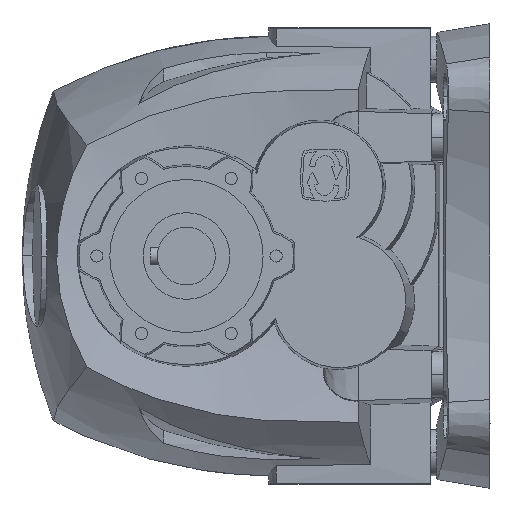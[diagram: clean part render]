
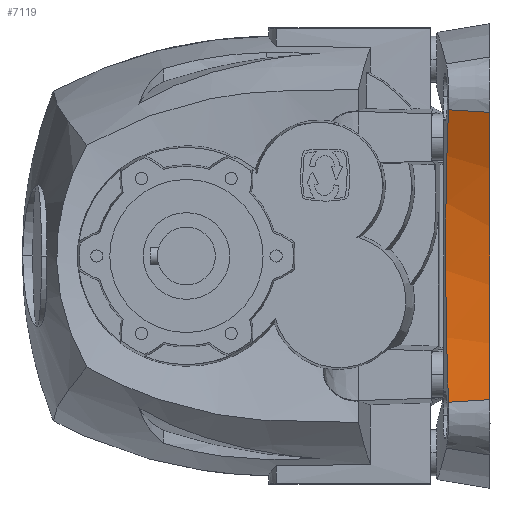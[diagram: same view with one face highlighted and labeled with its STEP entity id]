
A CAD part, left-side view. The second image highlights one B-rep face of the part: STEP entity #7119.
In plain terms, the highlighted conical face has half-angle 10 degrees and reference radius 142.72 mm.
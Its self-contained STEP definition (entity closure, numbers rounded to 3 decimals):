
#8 = CARTESIAN_POINT ( 'NONE',  ( -86.024, -105., -49.677 ) ) ;
#9 = CARTESIAN_POINT ( 'NONE',  ( -83.655, -90.629, -50.577 ) ) ;
#16 = CARTESIAN_POINT ( 'NONE',  ( -216.914, -105., 0. ) ) ;
#17 = DIRECTION ( 'NONE',  ( 0., -1., 0. ) ) ;
#18 = DIRECTION ( 'NONE',  ( -1., 0., 0. ) ) ;
#7119 = ADVANCED_FACE ( 'NONE', ( #11155 ), #11165, .F. ) ;
#7428 = VERTEX_POINT ( 'NONE', #21688 ) ;
#7663 = VERTEX_POINT ( 'NONE', #23163 ) ;
#7668 = VERTEX_POINT ( 'NONE', #23168 ) ;
#7669 = VERTEX_POINT ( 'NONE', #23169 ) ;
#8309 = ORIENTED_EDGE ( 'NONE', *, *, #8599, .F. ) ;
#8310 = ORIENTED_EDGE ( 'NONE', *, *, #8639, .F. ) ;
#8311 = ORIENTED_EDGE ( 'NONE', *, *, #8640, .T. ) ;
#8312 = ORIENTED_EDGE ( 'NONE', *, *, #8627, .F. ) ;
#8599 = EDGE_CURVE ( 'NONE', #7669, #7663, #17416, .T. ) ;
#8627 = EDGE_CURVE ( 'NONE', #7663, #7428, #17428, .T. ) ;
#8639 = EDGE_CURVE ( 'NONE', #7668, #7669, #17431, .T. ) ;
#8640 = EDGE_CURVE ( 'NONE', #7668, #7428, #22147, .T. ) ;
#9738 = EDGE_LOOP ( 'NONE', ( #8309, #8310, #8311, #8312 ) ) ;
#11155 = FACE_OUTER_BOUND ( 'NONE', #9738, .T. ) ;
#11165 = CONICAL_SURFACE ( 'NONE', #20194, 142.72, 0.175 ) ;
#17416 = B_SPLINE_CURVE_WITH_KNOTS ( 'NONE', 3,
 ( #24123, #24165, #24192, #24193, #24194, #24195, #24196, #24197, #24198, #24199, #24200, #24201, #24202, #24203, #24204, #24205, #24206, #24207, #24208, #24209, #24210, #24211, #24212, #24213 ),
 .UNSPECIFIED., .F., .F.,
 ( 4, 2, 2, 2, 2, 2, 2, 2, 2, 2, 2, 4 ),
 ( 0., 0.013, 0.026, 0.039, 0.045, 0.048, 0.051, 0.064, 0.077, 0.09, 0.097, 0.103 ),
 .UNSPECIFIED. ) ;
#17428 = B_SPLINE_CURVE_WITH_KNOTS ( 'NONE', 1,
 ( #24342, #24348 ),
 .UNSPECIFIED., .F., .F.,
 ( 2, 2 ),
 ( 0., 1. ),
 .UNSPECIFIED. ) ;
#17431 = B_SPLINE_CURVE_WITH_KNOTS ( 'NONE', 1,
 ( #8, #9 ),
 .UNSPECIFIED., .F., .F.,
 ( 2, 2 ),
 ( 0., 1. ),
 .UNSPECIFIED. ) ;
#19222 = DIRECTION ( 'NONE',  ( -1., 0., 0. ) ) ;
#19224 = DIRECTION ( 'NONE',  ( 0., 1., 0. ) ) ;
#19226 = CARTESIAN_POINT ( 'NONE',  ( -216.914, -89.576, 0. ) ) ;
#20194 = AXIS2_PLACEMENT_3D ( 'NONE', #19226, #19224, #19222 ) ;
#20425 = AXIS2_PLACEMENT_3D ( 'NONE', #16, #17, #18 ) ;
#21688 = CARTESIAN_POINT ( 'NONE',  ( -86.024, -105., 49.677 ) ) ;
#22147 = CIRCLE ( 'NONE', #20425, 140. ) ;
#23163 = CARTESIAN_POINT ( 'NONE',  ( -83.655, -90.629, 50.577 ) ) ;
#23168 = CARTESIAN_POINT ( 'NONE',  ( -86.024, -105., -49.677 ) ) ;
#23169 = CARTESIAN_POINT ( 'NONE',  ( -83.655, -90.629, -50.577 ) ) ;
#24123 = CARTESIAN_POINT ( 'NONE',  ( -83.655, -90.629, -50.577 ) ) ;
#24165 = CARTESIAN_POINT ( 'NONE',  ( -82.084, -90.459, -46.523 ) ) ;
#24192 = CARTESIAN_POINT ( 'NONE',  ( -80.715, -90.315, -42.427 ) ) ;
#24193 = CARTESIAN_POINT ( 'NONE',  ( -78.365, -90.074, -34.155 ) ) ;
#24194 = CARTESIAN_POINT ( 'NONE',  ( -77.384, -89.976, -29.979 ) ) ;
#24195 = CARTESIAN_POINT ( 'NONE',  ( -75.809, -89.821, -21.547 ) ) ;
#24196 = CARTESIAN_POINT ( 'NONE',  ( -75.213, -89.764, -17.291 ) ) ;
#24197 = CARTESIAN_POINT ( 'NONE',  ( -74.614, -89.706, -10.847 ) ) ;
#24198 = CARTESIAN_POINT ( 'NONE',  ( -74.463, -89.692, -8.689 ) ) ;
#24199 = CARTESIAN_POINT ( 'NONE',  ( -74.311, -89.677, -5.436 ) ) ;
#24200 = CARTESIAN_POINT ( 'NONE',  ( -74.273, -89.674, -4.348 ) ) ;
#24201 = CARTESIAN_POINT ( 'NONE',  ( -74.223, -89.669, -2.177 ) ) ;
#24202 = CARTESIAN_POINT ( 'NONE',  ( -74.21, -89.668, -1.094 ) ) ;
#24203 = CARTESIAN_POINT ( 'NONE',  ( -74.21, -89.668, 4.317 ) ) ;
#24204 = CARTESIAN_POINT ( 'NONE',  ( -74.409, -89.687, 8.618 ) ) ;
#24205 = CARTESIAN_POINT ( 'NONE',  ( -75.198, -89.762, 17.167 ) ) ;
#24206 = CARTESIAN_POINT ( 'NONE',  ( -75.788, -89.819, 21.415 ) ) ;
#24207 = CARTESIAN_POINT ( 'NONE',  ( -77.358, -89.974, 29.858 ) ) ;
#24208 = CARTESIAN_POINT ( 'NONE',  ( -78.338, -90.071, 34.053 ) ) ;
#24209 = CARTESIAN_POINT ( 'NONE',  ( -80.111, -90.253, 40.304 ) ) ;
#24210 = CARTESIAN_POINT ( 'NONE',  ( -80.753, -90.32, 42.384 ) ) ;
#24211 = CARTESIAN_POINT ( 'NONE',  ( -82.132, -90.465, 46.506 ) ) ;
#24212 = CARTESIAN_POINT ( 'NONE',  ( -82.869, -90.544, 48.55 ) ) ;
#24213 = CARTESIAN_POINT ( 'NONE',  ( -83.655, -90.629, 50.577 ) ) ;
#24342 = CARTESIAN_POINT ( 'NONE',  ( -83.655, -90.629, 50.577 ) ) ;
#24348 = CARTESIAN_POINT ( 'NONE',  ( -86.024, -105., 49.677 ) ) ;
